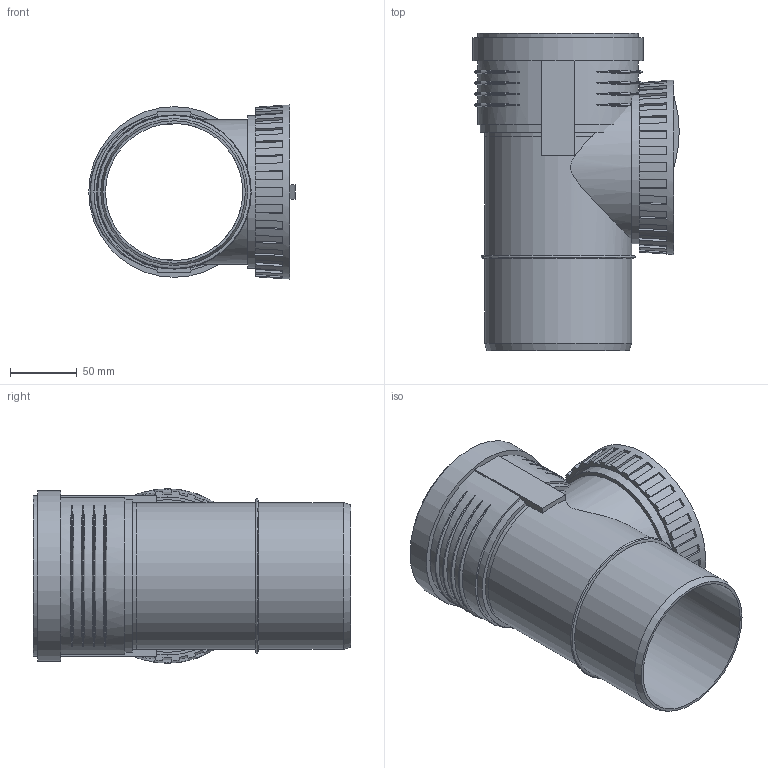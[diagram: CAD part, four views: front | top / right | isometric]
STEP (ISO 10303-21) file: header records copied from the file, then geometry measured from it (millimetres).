
FILE_DESCRIPTION(/* description */ (''),/* implementation_level */ '2;1');
FILE_NAME(/* name */ 'Z:\Geberit\Export\NewStep\390527.stp',/* time_stamp */ '2014-04-02T08:14:16+02:00',/* author */ ('ML'),/* organization */ (''),/* preprocessor_version */ 'ST-DEVELOPER v15.2',/* originating_system */ 'Autodesk Inventor 2014',/* authorisation */ '');
FILE_SCHEMA (('AUTOMOTIVE_DESIGN { 1 0 10303 214 3 1 1 }'));
Length unit declared in the file: millimetre
Products named in the file (4): 861482; 861404; 861486; 390527
Bounding box: 154.92 x 238 x 131 mm (x, y, z)
Volume: 544291.1 mm3; surface area: 289579.3 mm2
Topology: 3 solids, 3 shells, 217 faces, 587 edges, 393 vertices
Faces by surface type: plane 158, torus 27, cylinder 22, cone 10
Full cylindrical faces by diameter (mm): 102.5 x1, 103 x1, 103.2 x1, 110.2 x3, 113.3 x2, 114.65 x1, 120.3 x1, 121.1 x1, 128.1 x1
Entity records: 7773 total; most frequent: CARTESIAN_POINT 2275, ORIENTED_EDGE 1130, DIRECTION 1022, EDGE_CURVE 563, VERTEX_POINT 390, AXIS2_PLACEMENT_3D 361, LINE 300, VECTOR 300
